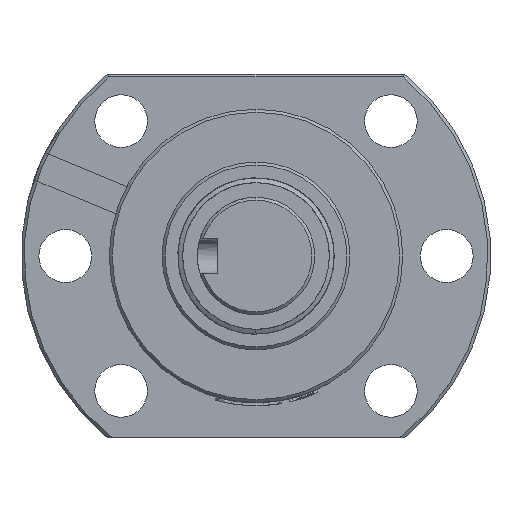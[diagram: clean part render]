
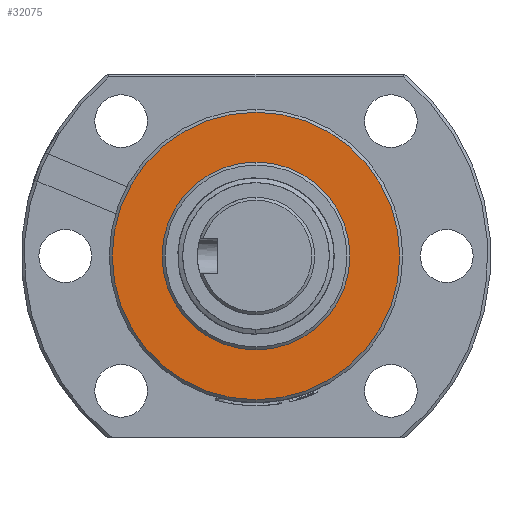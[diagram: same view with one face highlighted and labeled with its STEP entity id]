
A CAD part, left-side view. The second image highlights one B-rep face of the part: STEP entity #32075.
In plain terms, the highlighted planar face has unit normal (-1, 0, 0) as drawn and (1, 0, 0) by its records, which use the part's own axes.
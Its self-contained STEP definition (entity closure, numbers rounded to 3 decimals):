
#457 = CIRCLE ( 'NONE', #29786, 24.5 ) ;
#3378 = DIRECTION ( 'NONE',  ( 0., 0., 1. ) ) ;
#3462 = FACE_BOUND ( 'NONE', #9938, .T. ) ;
#4077 = CIRCLE ( 'NONE', #21129, 16. ) ;
#4482 = VERTEX_POINT ( 'NONE', #8885 ) ;
#5494 = PLANE ( 'NONE',  #6134 ) ;
#6134 = AXIS2_PLACEMENT_3D ( 'NONE', #16717, #28009, #31807 ) ;
#6856 = AXIS2_PLACEMENT_3D ( 'NONE', #8335, #34302, #3378 ) ;
#7411 = ORIENTED_EDGE ( 'NONE', *, *, #9280, .T. ) ;
#8255 = FACE_OUTER_BOUND ( 'NONE', #34416, .T. ) ;
#8335 = CARTESIAN_POINT ( 'NONE',  ( -41.12, 2.767, 19.342 ) ) ;
#8619 = EDGE_CURVE ( 'NONE', #23470, #4482, #30361, .T. ) ;
#8885 = CARTESIAN_POINT ( 'NONE',  ( -41.12, 2.767, 43.842 ) ) ;
#9280 = EDGE_CURVE ( 'NONE', #23022, #34778, #26846, .T. ) ;
#9938 = EDGE_LOOP ( 'NONE', ( #30684, #7411 ) ) ;
#10937 = AXIS2_PLACEMENT_3D ( 'NONE', #17010, #33777, #17190 ) ;
#12133 = ORIENTED_EDGE ( 'NONE', *, *, #12675, .T. ) ;
#12675 = EDGE_CURVE ( 'NONE', #4482, #23470, #457, .T. ) ;
#14310 = ORIENTED_EDGE ( 'NONE', *, *, #8619, .T. ) ;
#14490 = DIRECTION ( 'NONE',  ( 0., 0., 1. ) ) ;
#16717 = CARTESIAN_POINT ( 'NONE',  ( -41.12, 2.767, -5.658 ) ) ;
#17010 = CARTESIAN_POINT ( 'NONE',  ( -41.12, 2.767, 19.342 ) ) ;
#17071 = CARTESIAN_POINT ( 'NONE',  ( -41.12, 2.767, -5.158 ) ) ;
#17190 = DIRECTION ( 'NONE',  ( 0., 0., 1. ) ) ;
#17981 = DIRECTION ( 'NONE',  ( -1., 0., 0. ) ) ;
#18550 = EDGE_CURVE ( 'NONE', #34778, #23022, #4077, .T. ) ;
#19833 = DIRECTION ( 'NONE',  ( 1., 0., 0. ) ) ;
#20950 = CARTESIAN_POINT ( 'NONE',  ( -41.12, 2.767, 19.342 ) ) ;
#21129 = AXIS2_PLACEMENT_3D ( 'NONE', #20950, #17981, #34573 ) ;
#23022 = VERTEX_POINT ( 'NONE', #27092 ) ;
#23470 = VERTEX_POINT ( 'NONE', #17071 ) ;
#26846 = CIRCLE ( 'NONE', #10937, 16. ) ;
#27092 = CARTESIAN_POINT ( 'NONE',  ( -41.12, 2.767, 3.342 ) ) ;
#28009 = DIRECTION ( 'NONE',  ( -1., 0., 0. ) ) ;
#29786 = AXIS2_PLACEMENT_3D ( 'NONE', #33831, #19833, #14490 ) ;
#30361 = CIRCLE ( 'NONE', #6856, 24.5 ) ;
#30684 = ORIENTED_EDGE ( 'NONE', *, *, #18550, .T. ) ;
#31807 = DIRECTION ( 'NONE',  ( 0., 0., 1. ) ) ;
#32075 = ADVANCED_FACE ( 'NONE', ( #3462, #8255 ), #5494, .F. ) ;
#33168 = CARTESIAN_POINT ( 'NONE',  ( -41.12, 2.767, 35.342 ) ) ;
#33777 = DIRECTION ( 'NONE',  ( -1., 0., 0. ) ) ;
#33831 = CARTESIAN_POINT ( 'NONE',  ( -41.12, 2.767, 19.342 ) ) ;
#34302 = DIRECTION ( 'NONE',  ( 1., 0., 0. ) ) ;
#34416 = EDGE_LOOP ( 'NONE', ( #12133, #14310 ) ) ;
#34573 = DIRECTION ( 'NONE',  ( 0., 0., 1. ) ) ;
#34778 = VERTEX_POINT ( 'NONE', #33168 ) ;
